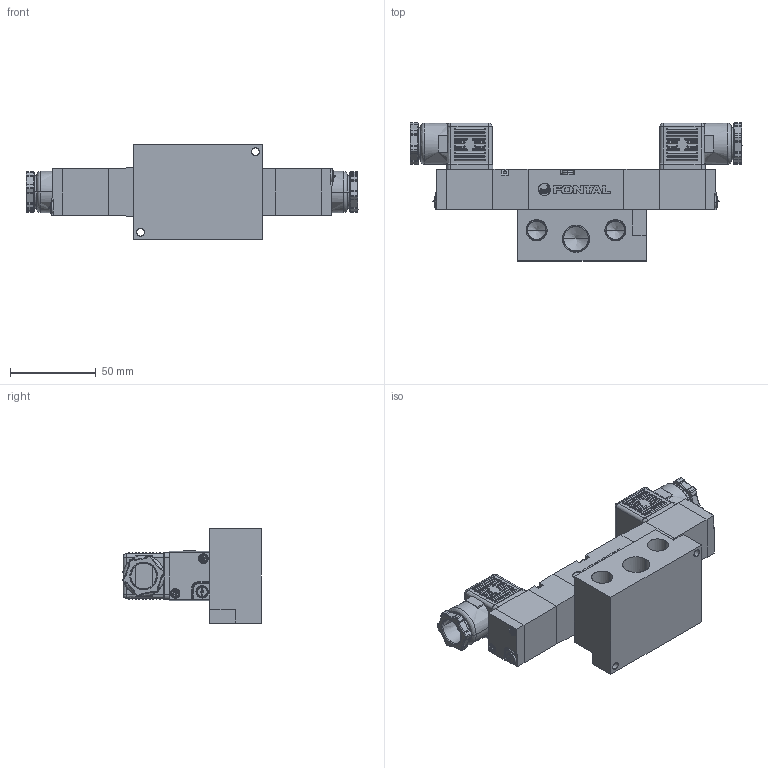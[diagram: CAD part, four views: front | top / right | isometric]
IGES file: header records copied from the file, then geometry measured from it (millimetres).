
Start section: SolidWorks IGES file using analytic representation for surfaces
Global section: file name: D:\Custom\3D繪製\PC\PC08\PCD2408#-03-#C#.IGS,1; native system: 5HSolidWorks 2014; preprocessor: SolidWorks 2014; author: Chieh_Lu; date: 150801.025841; units: millimetre
Bounding box: 193.7 x 80.64 x 55 mm (x, y, z)
Surface area: 63170 mm2 (no closed solid volume)
Topology: 0 solids, 0 shells, 1340 faces, 10854 edges, 10568 vertices
Faces by surface type: revolution 784, bspline 556
